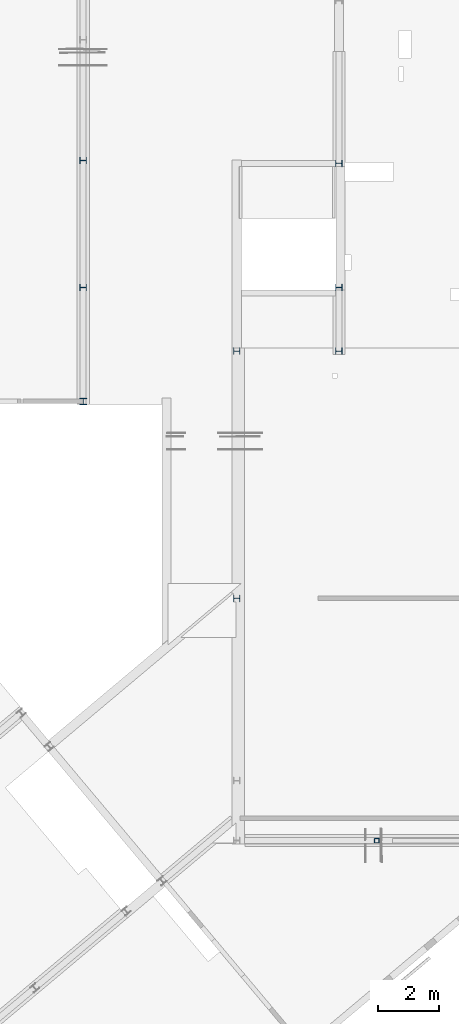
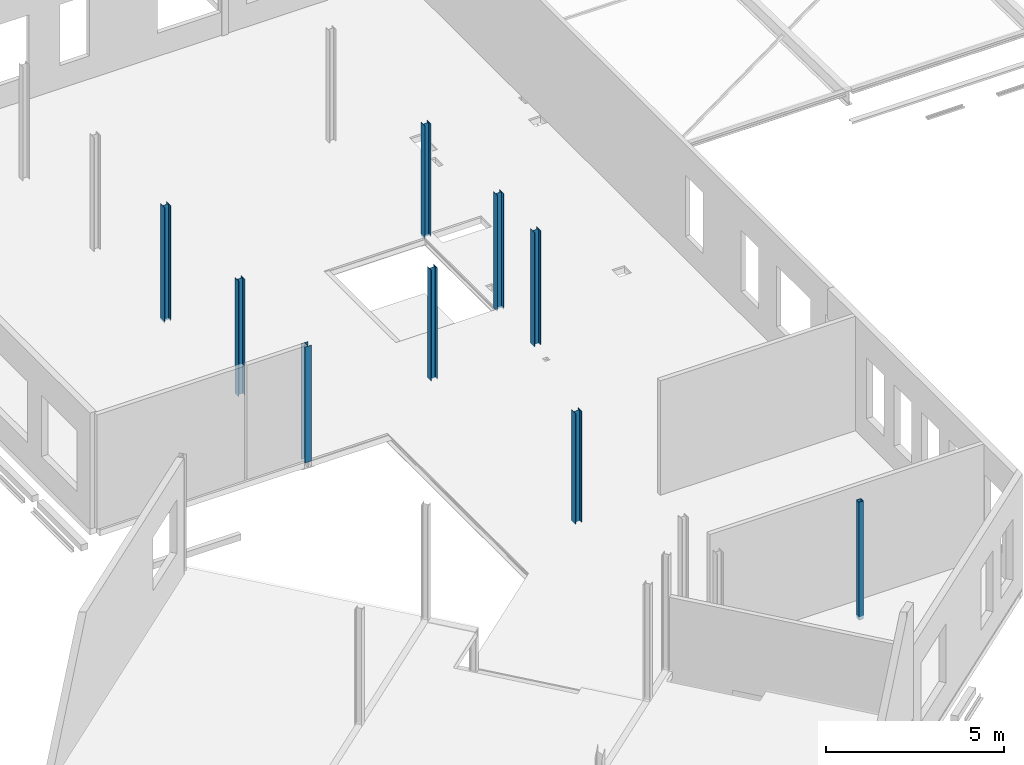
# One storey, part 2 of 16: 9 columns.
"""IFC2X3 building model written with IfcOpenShell, lengths in millimetres."""

import ifcopenshell
import ifcopenshell.guid

model = None  # the IFC model being written
_history = None  # IfcOwnerHistory: only IFC2X3 demands one
_inside = {}  # id of a spatial element -> (the spatial element, [elements in it])
_under = {}  # id of a project, library or spatial element -> (it, [spatial elements below it])
_declared = {}  # id of a project -> (the project, [libraries it declares])
_typed = {}  # id of a type object -> (the type object, [elements of that type])
_made_of = {}  # id of a material, layer set ... -> (it, [elements and type objects made of it])


def new_model(schema):
    """Start an empty IFC model of exactly this schema.

    Asked for "IFC4X3", IfcOpenShell would pick the latest addendum, in which some entities
    have other attributes; the version numbers below select the first issue.
    IFC2X3 requires an IfcOwnerHistory on every rooted entity: one is made here for all.
    """
    global model, _history
    if schema == "IFC4X3":
        model = ifcopenshell.file(schema_version=(4, 3, 0, 0))
    else:
        model = ifcopenshell.file(schema=schema)
    _inside.clear()
    _under.clear()
    _declared.clear()
    _typed.clear()
    _made_of.clear()
    _history = None
    if model.schema == "IFC2X3":
        org = make("IfcOrganization", Name="unknown")
        user = make(
            "IfcPersonAndOrganization",
            ThePerson=make("IfcPerson", FamilyName="unknown"),
            TheOrganization=org,
        )
        app = make(
            "IfcApplication",
            ApplicationDeveloper=org,
            Version="unknown",
            ApplicationFullName="unknown",
            ApplicationIdentifier="unknown",
        )
        _history = make(
            "IfcOwnerHistory",
            OwningUser=user,
            OwningApplication=app,
            ChangeAction="ADDED",
            CreationDate=0,
        )
    return model


def make(cls, **values):
    """One entity of the class cls with the attributes given. An attribute that is None is left unset."""
    return model.create_entity(
        cls, **{name: value for name, value in values.items() if value is not None}
    )


def entity(cls, *values):
    """Any entity or typed value of the class cls, its attributes in the order of the schema. None: left unset."""
    e = model.create_entity(cls)
    for i, value in enumerate(values):
        if value is not None:
            e[i] = value
    return e


def rooted(cls, **values):
    """An entity with a GlobalId (a new one), such as an element, a storey or a relation."""
    return make(cls, GlobalId=ifcopenshell.guid.new(), OwnerHistory=_history, **values)


def si_unit(unit_type, name, prefix=None):
    """IfcSIUnit, for example si_unit("LENGTHUNIT", "METRE", prefix="MILLI")."""
    return make("IfcSIUnit", UnitType=unit_type, Prefix=prefix, Name=name)


def converted_unit(unit_type, name, factor, base, dimensions=None, offset=None):
    """IfcConversionBasedUnit, such as the inch: factor (a typed value) times the base unit."""
    return make(
        "IfcConversionBasedUnit"
        if offset is None
        else "IfcConversionBasedUnitWithOffset",
        ConversionOffset=offset,
        Dimensions=None
        if dimensions is None
        else entity("IfcDimensionalExponents", *dimensions),
        UnitType=unit_type,
        Name=name,
        ConversionFactor=make(
            "IfcMeasureWithUnit", ValueComponent=factor, UnitComponent=base
        ),
    )


def derived_unit(unit_type, elements):
    """IfcDerivedUnit: a product of units, each with its exponent."""
    return make(
        "IfcDerivedUnit",
        Elements=[
            make("IfcDerivedUnitElement", Unit=unit, Exponent=power)
            for unit, power in elements
        ],
        UnitType=unit_type,
    )


def assignment(units):
    """IfcUnitAssignment: the units of a project."""
    return None if units is None else make("IfcUnitAssignment", Units=units)


def point(xyz):
    """IfcCartesianPoint."""
    return None if xyz is None else make("IfcCartesianPoint", Coordinates=xyz)


def direction(xyz):
    """IfcDirection."""
    return None if xyz is None else make("IfcDirection", DirectionRatios=xyz)


def frame(location, z_axis=None, x_axis=None):
    """IfcAxis2Placement3D, a coordinate frame: its origin and axes. An axis left out is left unset."""
    return make(
        "IfcAxis2Placement3D",
        Location=point(location),
        Axis=direction(z_axis),
        RefDirection=direction(x_axis),
    )


def frame_2d(location, x_axis=None):
    """IfcAxis2Placement2D, a coordinate frame in the plane: its origin and x axis."""
    return make(
        "IfcAxis2Placement2D", Location=point(location), RefDirection=direction(x_axis)
    )


def origin():
    """The frame at (0, 0, 0) with its axes left unset."""
    return frame((0.0, 0.0, 0.0))


def place(relative_to, where):
    """IfcLocalPlacement: puts the frame where relative to a parent placement (None: the world)."""
    return make(
        "IfcLocalPlacement", PlacementRelTo=relative_to, RelativePlacement=where
    )


def context(
    kind, dimensions, precision=None, world=None, true_north=None, identifier=None
):
    """IfcGeometricRepresentationContext, for example the 3D "Model" context."""
    return make(
        "IfcGeometricRepresentationContext",
        ContextIdentifier=identifier,
        ContextType=kind,
        CoordinateSpaceDimension=dimensions,
        Precision=precision,
        WorldCoordinateSystem=world,
        TrueNorth=true_north,
    )


def subcontext(parent, identifier, kind, view, scale=None):
    """IfcGeometricRepresentationSubContext, for example "Body" below "Model"."""
    return make(
        "IfcGeometricRepresentationSubContext",
        ContextIdentifier=identifier,
        ContextType=kind,
        ParentContext=parent,
        TargetScale=scale,
        TargetView=view,
    )


def project(units=None, contexts=None):
    """IfcProject with its units and contexts."""
    return rooted(
        "IfcProject",
        Name="project",
        RepresentationContexts=contexts,
        UnitsInContext=assignment(units),
    )


def spatial(cls, under=None, at=None, **own):
    """A site, building, storey or space (cls), placed at a placement, below another one or the project."""
    s = rooted(cls, ObjectPlacement=at, **own)
    if under is not None:
        _under.setdefault(under.id(), (under, []))[1].append(s)
    return s


def polyline(points):
    """IfcPolyline through the points."""
    return make("IfcPolyline", Points=[point(p) for p in points])


def circle_curve(where, radius):
    """IfcCircle in the frame where."""
    return make("IfcCircle", Position=where, Radius=radius)


def parameter(value):
    """IfcParameterValue: where a trimmed curve begins or ends, as a parameter of its basis curve."""
    return model.create_entity("IfcParameterValue", value)


def trimmed(basis, trim1, trim2, sense, master):
    """IfcTrimmedCurve: the piece of a basis curve between two trims."""
    return make(
        "IfcTrimmedCurve",
        BasisCurve=basis,
        Trim1=trim1,
        Trim2=trim2,
        SenseAgreement=sense,
        MasterRepresentation=master,
    )


def segment(curve, same_sense, transition):
    """IfcCompositeCurveSegment."""
    return make(
        "IfcCompositeCurveSegment",
        Transition=transition,
        SameSense=same_sense,
        ParentCurve=curve,
    )


def composite_curve(segments, self_intersect=None):
    """IfcCompositeCurve: segments joined end to end."""
    return make("IfcCompositeCurve", Segments=segments, SelfIntersect=self_intersect)


def profile(cls, at=None, kind="AREA", **sizes):
    """A parametric profile (cls). Its sizes go by their IFC names, for example OverallWidth=200.0."""
    return make(cls, ProfileType=kind, Position=at, **sizes)


def i_section(**sizes):
    """IfcIShapeProfileDef."""
    return profile("IfcIShapeProfileDef", **sizes)


def outline(outer, holes=None, kind="AREA"):
    """IfcArbitraryClosedProfileDef: a profile drawn as a closed curve; with holes, ...WithVoids."""
    if holes is None:
        return make("IfcArbitraryClosedProfileDef", ProfileType=kind, OuterCurve=outer)
    return make(
        "IfcArbitraryProfileDefWithVoids",
        ProfileType=kind,
        OuterCurve=outer,
        InnerCurves=holes,
    )


def extrude(swept, where, along, depth):
    """IfcExtrudedAreaSolid: the profile swept, set in the frame where, extruded along a direction by depth."""
    return make(
        "IfcExtrudedAreaSolid",
        SweptArea=swept,
        Position=where,
        ExtrudedDirection=direction(along),
        Depth=depth,
    )


def shape(context_of_items, identifier, shape_type, items):
    """IfcShapeRepresentation: the items that make up one representation, for example the "Body"."""
    return make(
        "IfcShapeRepresentation",
        ContextOfItems=context_of_items,
        RepresentationIdentifier=identifier,
        RepresentationType=shape_type,
        Items=items,
    )


def source(mapping_origin, context_of_items, identifier, shape_type, items):
    """IfcRepresentationMap: a shape defined once, which mapped items show again and again."""
    return make(
        "IfcRepresentationMap",
        MappingOrigin=mapping_origin,
        MappedRepresentation=shape(context_of_items, identifier, shape_type, items),
    )


def transform(
    local_origin,
    x_axis=None,
    y_axis=None,
    z_axis=None,
    scale=None,
    scale2=None,
    scale3=None,
    uniform=True,
):
    """IfcCartesianTransformationOperator3D, or its non-uniform kind. x_axis, y_axis, z_axis: its Axis1, 2, 3."""
    if uniform:
        return make(
            "IfcCartesianTransformationOperator3D",
            Axis1=direction(x_axis),
            Axis2=direction(y_axis),
            LocalOrigin=point(local_origin),
            Scale=scale,
            Axis3=direction(z_axis),
        )
    return make(
        "IfcCartesianTransformationOperator3DnonUniform",
        Axis1=direction(x_axis),
        Axis2=direction(y_axis),
        LocalOrigin=point(local_origin),
        Scale=scale,
        Axis3=direction(z_axis),
        Scale2=scale2,
        Scale3=scale3,
    )


def mapped(mapping_source, mapping_target):
    """IfcMappedItem: shows the shape of a source again, moved by a transform."""
    return make(
        "IfcMappedItem", MappingSource=mapping_source, MappingTarget=mapping_target
    )


def material(Name=None, Category=None):
    """IfcMaterial."""
    return make("IfcMaterial", Name=Name, Category=Category)


def made_of(thing, what):
    """Note that an element or type object is made of a material, layer set ...; save() writes the relation."""
    if what is not None:
        _made_of.setdefault(what.id(), (what, []))[1].append(thing)
    return thing


def type_object(cls, material=None, **own):
    """A type object (cls), such as IfcWallType, which elements share."""
    return made_of(rooted(cls, **own), material)


def type_shapes(of_type, sources):
    """Give a type object the sources (RepresentationMaps) that its elements show as mapped items."""
    of_type.RepresentationMaps = sources


def element(
    cls,
    number,
    at=None,
    inside=None,
    cuts=None,
    type_object=None,
    material=None,
    context=None,
    identifier="Body",
    shape_type=None,
    held_by="IfcProductDefinitionShape",
    body=None,
    shapes=None,
    **own,
):
    """One element of the class cls, such as IfcWall. Its Tag is "e" and its number.

    at: its placement. inside: the storey or other place that contains it. cuts: it is an
    opening in that element (IfcRelVoidsElement). A single representation is given by context,
    identifier, shape_type and body (its items); several are given by shapes. held_by: the class
    of the entity that holds the representations. save() writes the other relations.
    """
    e = rooted(cls, Tag="e%d" % number, ObjectPlacement=at, **own)
    if body is not None:
        shapes = [shape(context, identifier, shape_type, body)]
    if shapes is not None:
        e.Representation = make(held_by, Representations=shapes)
    if inside is not None:
        _inside.setdefault(inside.id(), (inside, []))[1].append(e)
    if cuts is not None:
        rooted(
            "IfcRelVoidsElement", RelatingBuildingElement=cuts, RelatedOpeningElement=e
        )
    if type_object is not None:
        _typed.setdefault(type_object.id(), (type_object, []))[1].append(e)
    return made_of(e, material)


def aggregate(whole, parts):
    """IfcRelAggregates: a whole, such as a stair, and the parts it consists of."""
    return rooted("IfcRelAggregates", RelatingObject=whole, RelatedObjects=parts)


def save(model, path):
    """Write the relations noted so far, then the file.

    IfcRelAggregates (storeys below a building ...), IfcRelContainedInSpatialStructure (elements
    in a storey), IfcRelDefinesByType, IfcRelAssociatesMaterial and IfcRelDeclares: one each for
    every whole, place, type object, material and project.
    """
    for whole, parts in _under.values():
        aggregate(whole, parts)
    for where, things in _inside.values():
        rooted(
            "IfcRelContainedInSpatialStructure",
            RelatedElements=things,
            RelatingStructure=where,
        )
    for kind, things in _typed.values():
        rooted("IfcRelDefinesByType", RelatedObjects=things, RelatingType=kind)
    for what, things in _made_of.values():
        rooted("IfcRelAssociatesMaterial", RelatedObjects=things, RelatingMaterial=what)
    for by, libraries in _declared.values():
        rooted("IfcRelDeclares", RelatingContext=by, RelatedDefinitions=libraries)
    model.write(path)


model = new_model("IFC2X3")

# Units and contexts
model_context = context("Model", 3, precision=0.01, world=origin(), true_north=direction((6.12303176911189e-17, 1.0)))
body_context = subcontext(model_context, "Body", "Model", "MODEL_VIEW")
ifc_project = project(units=[si_unit("LENGTHUNIT", "METRE", prefix="MILLI"), si_unit("AREAUNIT", "SQUARE_METRE"), si_unit("VOLUMEUNIT", "CUBIC_METRE"), converted_unit("PLANEANGLEUNIT", "DEGREE", entity("IfcRatioMeasure", 0.0174532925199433), si_unit("PLANEANGLEUNIT", "RADIAN"), dimensions=[0, 0, 0, 0, 0, 0, 0]), si_unit("MASSUNIT", "GRAM", prefix="KILO"), derived_unit("MASSDENSITYUNIT", [(si_unit("MASSUNIT", "GRAM", prefix="KILO"), 1), (si_unit("LENGTHUNIT", "METRE"), -3)]), derived_unit("MOMENTOFINERTIAUNIT", [(si_unit("LENGTHUNIT", "METRE"), 4)]), si_unit("TIMEUNIT", "SECOND"), si_unit("FREQUENCYUNIT", "HERTZ"), si_unit("THERMODYNAMICTEMPERATUREUNIT", "DEGREE_CELSIUS"), derived_unit("THERMALTRANSMITTANCEUNIT", [(si_unit("MASSUNIT", "GRAM", prefix="KILO"), 1), (si_unit("THERMODYNAMICTEMPERATUREUNIT", "KELVIN"), -1), (si_unit("TIMEUNIT", "SECOND"), -3)]), derived_unit("VOLUMETRICFLOWRATEUNIT", [(si_unit("LENGTHUNIT", "METRE"), 3), (si_unit("TIMEUNIT", "SECOND"), -1)]), si_unit("ELECTRICCURRENTUNIT", "AMPERE"), si_unit("ELECTRICVOLTAGEUNIT", "VOLT"), si_unit("POWERUNIT", "WATT"), si_unit("FORCEUNIT", "NEWTON", prefix="KILO"), si_unit("ILLUMINANCEUNIT", "LUX"), si_unit("LUMINOUSFLUXUNIT", "LUMEN"), si_unit("LUMINOUSINTENSITYUNIT", "CANDELA"), derived_unit("USERDEFINED", [(si_unit("MASSUNIT", "GRAM", prefix="KILO"), -1), (si_unit("LENGTHUNIT", "METRE"), -2), (si_unit("TIMEUNIT", "SECOND"), 3), (si_unit("LUMINOUSFLUXUNIT", "LUMEN"), 1)]), derived_unit("LINEARVELOCITYUNIT", [(si_unit("LENGTHUNIT", "METRE"), 1), (si_unit("TIMEUNIT", "SECOND"), -1)]), si_unit("PRESSUREUNIT", "PASCAL"), derived_unit("USERDEFINED", [(si_unit("LENGTHUNIT", "METRE"), -2), (si_unit("MASSUNIT", "GRAM", prefix="KILO"), 1), (si_unit("TIMEUNIT", "SECOND"), -2)]), derived_unit("LINEARFORCEUNIT", [(si_unit("MASSUNIT", "GRAM", prefix="KILO"), 1), (si_unit("LENGTHUNIT", "METRE"), 1), (si_unit("TIMEUNIT", "SECOND"), -2), (si_unit("LENGTHUNIT", "METRE"), -1)]), derived_unit("PLANARFORCEUNIT", [(si_unit("MASSUNIT", "GRAM", prefix="KILO"), 1), (si_unit("LENGTHUNIT", "METRE"), 1), (si_unit("TIMEUNIT", "SECOND"), -2), (si_unit("LENGTHUNIT", "METRE"), -2)])], contexts=[model_context])

# Site, building, storey
site_placement = place(None, origin())
site = spatial("IfcSite", under=ifc_project, at=site_placement, Name="Default", CompositionType="ELEMENT")
building_placement = place(site_placement, origin())
building = spatial("IfcBuilding", under=site, at=building_placement, CompositionType="ELEMENT")
storey_placement = place(building_placement, frame((0.0, 0.0, 3500.0)))
storey = spatial("IfcBuildingStorey", under=building, at=storey_placement, Name="01 eerste verdieping", CompositionType="ELEMENT", Elevation=3500.00000000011)

# Columns
ifc_material_1 = material(Name="h2_staal")
column_type_1 = type_object("IfcColumnType", Name="BERSnl_28_SCO_TLB_kolom hea_gen_ISR:kolom gen hea220", PredefinedType="COLUMN", material=ifc_material_1)
shared_shape_1 = source(origin(), body_context, "Body", "SweptSolid", [
    extrude(outline(composite_curve([segment(polyline([(94.0, -110.0), (105.0, -110.0)]), True, "CONTINUOUS"), segment(polyline([(105.0, -110.0), (105.0, 110.0)]), True, "CONTINUOUS"), segment(polyline([(105.0, 110.0), (94.0, 110.0)]), True, "CONTINUOUS"), segment(polyline([(94.0, 110.0), (94.0, 21.5000000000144)]), True, "CONTINUOUS"), segment(trimmed(circle_curve(frame_2d((76.0, 21.5000000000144), x_axis=(1.0, 0.0)), 18.0), [parameter(270.0)], [parameter(0.0)], True, "PARAMETER"), False, "CONTINUOUS"), segment(polyline([(76.0, 3.50000000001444), (-76.0, 3.50000000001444)]), True, "CONTINUOUS"), segment(trimmed(circle_curve(frame_2d((-76.0, 21.5000000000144), x_axis=(0.0, -1.0)), 18.0), [parameter(270.0)], [parameter(0.0)], True, "PARAMETER"), False, "CONTINUOUS"), segment(polyline([(-94.0, 21.5000000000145), (-94.0, 110.0)]), True, "CONTINUOUS"), segment(polyline([(-94.0, 110.0), (-105.0, 110.0)]), True, "CONTINUOUS"), segment(polyline([(-105.0, 110.0), (-105.0, -110.0)]), True, "CONTINUOUS"), segment(polyline([(-105.0, -110.0), (-94.0, -110.0)]), True, "CONTINUOUS"), segment(polyline([(-94.0, -110.0), (-94.0, -21.5000000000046)]), True, "CONTINUOUS"), segment(trimmed(circle_curve(frame_2d((-76.0, -21.5000000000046), x_axis=(-1.0, 0.0)), 18.0), [parameter(269.999999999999)], [parameter(0.0)], True, "PARAMETER"), False, "CONTINUOUS"), segment(polyline([(-76.0, -3.50000000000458), (76.0, -3.50000000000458)]), True, "CONTINUOUS"), segment(trimmed(circle_curve(frame_2d((76.0, -21.5000000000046), x_axis=(0.0, 1.0)), 18.0), [parameter(270.0)], [parameter(0.0)], True, "PARAMETER"), False, "CONTINUOUS"), segment(polyline([(94.0, -21.5000000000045), (94.0, -110.0)]), True, "CONTINUOUS")], self_intersect=False)), frame((0.0, 0.0, 3850.0), z_axis=(0.0, 0.0, 1.0), x_axis=(0.0, -1.0, 0.0)), (0.0, 0.0, 1.0), 3975.0),
])
type_shapes(column_type_1, [shared_shape_1])
for number, where, z_axis, x_axis, name in (
    (1, (20569.4349765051, 24097.2966282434, -3500.0), (0.0, 0.0, 1.0), (0.0, 1.0, 0.0), "BERSnl_28_SCO_TLB_kolom hea_gen_ISR:kolom gen hea220"),
    (2, (20569.4349765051, 19921.8399254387, -3500.0), (0.0, 0.0, 1.0), (0.0, 1.0, 0.0), "BERSnl_28_SCO_TLB_kolom hea_gen_ISR:kolom gen hea220"),
    (3, (20569.4349765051, 16182.2966282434, -3500.0), (0.0, 0.0, 1.0), (-1.0, 0.0, 0.0), "BERSnl_28_SCO_TLB_kolom hea_gen_ISR:kolom gen hea220"),
    (4, (28969.4349765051, 19922.2966282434, -3500.0), (0.0, 0.0, 1.0), (0.0, 1.0, 0.0), "BERSnl_28_SCO_TLB_kolom hea_gen_ISR:kolom gen hea220"),
):
    element("IfcColumn", number, at=place(storey_placement, frame(where, z_axis=z_axis, x_axis=x_axis)), inside=storey, type_object=column_type_1, Name=name, ObjectType="BERSnl_28_SCO_TLB_kolom hea_gen_ISR:kolom gen hea220", context=body_context, shape_type="MappedRepresentation", body=[
        mapped(shared_shape_1, transform((0.0, 0.0, 0.0), scale=1.0)),
    ])
column_type_2 = type_object("IfcColumnType", Name="BERSnl_28_SCO_TLB_kolom hea_gen_ISR:kolom gen hea220", PredefinedType="COLUMN", material=ifc_material_1)
shared_shape_2 = source(origin(), body_context, "Body", "SweptSolid", [
    extrude(outline(composite_curve([segment(polyline([(94.0, -110.0), (105.0, -110.0)]), True, "CONTINUOUS"), segment(polyline([(105.0, -110.0), (105.0, 110.0)]), True, "CONTINUOUS"), segment(polyline([(105.0, 110.0), (94.0, 110.0)]), True, "CONTINUOUS"), segment(polyline([(94.0, 110.0), (94.0, 21.5000000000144)]), True, "CONTINUOUS"), segment(trimmed(circle_curve(frame_2d((76.0, 21.5000000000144), x_axis=(1.0, 0.0)), 18.0), [parameter(270.0)], [parameter(0.0)], True, "PARAMETER"), False, "CONTINUOUS"), segment(polyline([(76.0, 3.50000000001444), (-76.0, 3.50000000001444)]), True, "CONTINUOUS"), segment(trimmed(circle_curve(frame_2d((-76.0, 21.5000000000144), x_axis=(0.0, -1.0)), 18.0), [parameter(270.0)], [parameter(0.0)], True, "PARAMETER"), False, "CONTINUOUS"), segment(polyline([(-94.0, 21.5000000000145), (-94.0, 110.0)]), True, "CONTINUOUS"), segment(polyline([(-94.0, 110.0), (-105.0, 110.0)]), True, "CONTINUOUS"), segment(polyline([(-105.0, 110.0), (-105.0, -110.0)]), True, "CONTINUOUS"), segment(polyline([(-105.0, -110.0), (-94.0, -110.0)]), True, "CONTINUOUS"), segment(polyline([(-94.0, -110.0), (-94.0, -21.5000000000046)]), True, "CONTINUOUS"), segment(trimmed(circle_curve(frame_2d((-76.0, -21.5000000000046), x_axis=(-1.0, 0.0)), 18.0), [parameter(269.999999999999)], [parameter(0.0)], True, "PARAMETER"), False, "CONTINUOUS"), segment(polyline([(-76.0, -3.50000000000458), (76.0, -3.50000000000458)]), True, "CONTINUOUS"), segment(trimmed(circle_curve(frame_2d((76.0, -21.5000000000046), x_axis=(0.0, 1.0)), 18.0), [parameter(270.0)], [parameter(0.0)], True, "PARAMETER"), False, "CONTINUOUS"), segment(polyline([(94.0, -21.5000000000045), (94.0, -110.0)]), True, "CONTINUOUS")], self_intersect=False)), frame((0.0, 0.0, 3850.0), z_axis=(0.0, 0.0, 1.0), x_axis=(0.0, -1.0, 0.0)), (0.0, 0.0, 1.0), 3891.0),
])
type_shapes(column_type_2, [shared_shape_2])
column_1_placement = place(storey_placement, frame((28969.4349765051, 24002.2966282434, -3500.0), z_axis=(0.0, 0.0, 1.0), x_axis=(0.0, 1.0, 0.0)))
element("IfcColumn", 5, at=column_1_placement, inside=storey, type_object=column_type_2, Name="BERSnl_28_SCO_TLB_kolom hea_gen_ISR:kolom gen hea220", ObjectType="BERSnl_28_SCO_TLB_kolom hea_gen_ISR:kolom gen hea220", context=body_context, shape_type="MappedRepresentation", body=[
    mapped(shared_shape_2, transform((0.0, 0.0, 0.0), scale=1.0)),
])
column_type_3 = type_object("IfcColumnType", Name="BERSnl_28_SCO_TLB_kolom hea_gen_ISR:kolom gen hea220", PredefinedType="COLUMN", material=ifc_material_1)
shared_shape_3 = source(origin(), body_context, "Body", "SweptSolid", [
    extrude(outline(composite_curve([segment(polyline([(94.0, -110.0), (105.0, -110.0)]), True, "CONTINUOUS"), segment(polyline([(105.0, -110.0), (105.0, 110.0)]), True, "CONTINUOUS"), segment(polyline([(105.0, 110.0), (94.0, 110.0)]), True, "CONTINUOUS"), segment(polyline([(94.0, 110.0), (94.0, 21.5000000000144)]), True, "CONTINUOUS"), segment(trimmed(circle_curve(frame_2d((76.0, 21.5000000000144), x_axis=(1.0, 0.0)), 18.0), [parameter(270.0)], [parameter(0.0)], True, "PARAMETER"), False, "CONTINUOUS"), segment(polyline([(76.0, 3.50000000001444), (-76.0, 3.50000000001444)]), True, "CONTINUOUS"), segment(trimmed(circle_curve(frame_2d((-76.0, 21.5000000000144), x_axis=(0.0, -1.0)), 18.0), [parameter(270.0)], [parameter(0.0)], True, "PARAMETER"), False, "CONTINUOUS"), segment(polyline([(-94.0, 21.5000000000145), (-94.0, 110.0)]), True, "CONTINUOUS"), segment(polyline([(-94.0, 110.0), (-105.0, 110.0)]), True, "CONTINUOUS"), segment(polyline([(-105.0, 110.0), (-105.0, -110.0)]), True, "CONTINUOUS"), segment(polyline([(-105.0, -110.0), (-94.0, -110.0)]), True, "CONTINUOUS"), segment(polyline([(-94.0, -110.0), (-94.0, -21.5000000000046)]), True, "CONTINUOUS"), segment(trimmed(circle_curve(frame_2d((-76.0, -21.5000000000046), x_axis=(-1.0, 0.0)), 18.0), [parameter(269.999999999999)], [parameter(0.0)], True, "PARAMETER"), False, "CONTINUOUS"), segment(polyline([(-76.0, -3.50000000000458), (76.0, -3.50000000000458)]), True, "CONTINUOUS"), segment(trimmed(circle_curve(frame_2d((76.0, -21.5000000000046), x_axis=(0.0, 1.0)), 18.0), [parameter(270.0)], [parameter(0.0)], True, "PARAMETER"), False, "CONTINUOUS"), segment(polyline([(94.0, -21.5000000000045), (94.0, -110.0)]), True, "CONTINUOUS")], self_intersect=False)), frame((0.0, 0.0, 3890.0), z_axis=(0.0, 0.0, 1.0), x_axis=(0.0, -1.0, 0.0)), (0.0, 0.0, 1.0), 3818.0),
])
type_shapes(column_type_3, [shared_shape_3])
column_2_placement = place(storey_placement, frame((25615.4349765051, 17833.5697997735, -3500.0), z_axis=(0.0, 0.0, 1.0), x_axis=(0.0, 1.0, 0.0)))
element("IfcColumn", 6, at=column_2_placement, inside=storey, type_object=column_type_3, Name="BERSnl_28_SCO_TLB_kolom hea_gen_ISR:kolom gen hea220", ObjectType="BERSnl_28_SCO_TLB_kolom hea_gen_ISR:kolom gen hea220", context=body_context, shape_type="MappedRepresentation", body=[
    mapped(shared_shape_3, transform((0.0, 0.0, 0.0), scale=1.0)),
])
column_type_4 = type_object("IfcColumnType", Name="BERSnl_28_SCO_TLB_kolom hea_gen_ISR:kolom gen hea220", PredefinedType="COLUMN", material=ifc_material_1)
shared_shape_4 = source(origin(), body_context, "Body", "SweptSolid", [
    extrude(i_section(OverallWidth=220.0, OverallDepth=210.0, WebThickness=7.00000000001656, FlangeThickness=11.0000000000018, FilletRadius=18.0000000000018, at=frame_2d((1.08002495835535e-12, -2.1600499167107e-12), x_axis=(1.0, 0.0))), frame((28969.4349765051, 17833.5697997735, 3890.0), z_axis=(0.0, 0.0, 1.0), x_axis=(0.0, -1.0, 0.0)), (0.0, 0.0, 1.0), 3935.0),
])
type_shapes(column_type_4, [shared_shape_4])
column_3_placement = place(storey_placement, frame((0.0, 0.0, -3500.0)))
element("IfcColumn", 7, at=column_3_placement, inside=storey, type_object=column_type_4, Name="BERSnl_28_SCO_TLB_kolom hea_gen_ISR:kolom gen hea220", ObjectType="BERSnl_28_SCO_TLB_kolom hea_gen_ISR:kolom gen hea220", context=body_context, shape_type="MappedRepresentation", body=[
    mapped(shared_shape_4, transform((0.0, 0.0, 0.0), scale=1.0)),
])
column_type_5 = type_object("IfcColumnType", Name="BERSnl_28_SCO_TLB_kolom hea_gen_ISR:kolom gen hea220", PredefinedType="COLUMN", material=ifc_material_1)
shared_shape_5 = source(origin(), body_context, "Body", "SweptSolid", [
    extrude(i_section(OverallWidth=220.000000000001, OverallDepth=210.0, WebThickness=7.00000000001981, FlangeThickness=11.0000000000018, FilletRadius=18.0000000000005, at=frame_2d((4.87432316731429e-12, -6.49436060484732e-12), x_axis=(1.0, 0.0))), frame((25615.4349765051, 9710.2966282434, 3890.0), z_axis=(0.0, 0.0, 1.0), x_axis=(0.0, -1.0, 0.0)), (0.0, 0.0, 1.0), 3818.0),
])
type_shapes(column_type_5, [shared_shape_5])
column_4_placement = place(storey_placement, frame((0.0, 0.0, -3500.0)))
element("IfcColumn", 8, at=column_4_placement, inside=storey, type_object=column_type_5, Name="BERSnl_28_SCO_TLB_kolom hea_gen_ISR:kolom gen hea220", ObjectType="BERSnl_28_SCO_TLB_kolom hea_gen_ISR:kolom gen hea220", context=body_context, shape_type="MappedRepresentation", body=[
    mapped(shared_shape_5, transform((0.0, 0.0, 0.0), scale=1.0)),
])
ifc_material_2 = material(Name="00_Staal_generiek")
column_type_6 = type_object("IfcColumnType", Name="BERSnl_28_SCO_TLB_kolom koker_gen_ISR:kolom gen K150x150x8", PredefinedType="COLUMN", material=ifc_material_2)
shared_shape_6 = source(origin(), body_context, "Body", "SweptSolid", [
    extrude(outline(composite_curve([segment(trimmed(circle_curve(frame_2d((65.0, 65.0), x_axis=(1.0, 0.0)), 10.0), [parameter(360.0)], [parameter(89.9999999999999)], True, "PARAMETER"), True, "CONTINUOUS"), segment(polyline([(65.0, 75.0), (-65.0, 75.0)]), True, "CONTINUOUS"), segment(trimmed(circle_curve(frame_2d((-65.0, 65.0), x_axis=(1.0, 0.0)), 10.0), [parameter(90.0000000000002)], [parameter(180.0)], True, "PARAMETER"), True, "CONTINUOUS"), segment(polyline([(-75.0, 65.0), (-75.0, -65.0)]), True, "CONTINUOUS"), segment(trimmed(circle_curve(frame_2d((-65.0, -65.0), x_axis=(1.0, 0.0)), 10.0), [parameter(180.0)], [parameter(270.0)], True, "PARAMETER"), True, "CONTINUOUS"), segment(polyline([(-65.0, -75.0), (65.0, -75.0)]), True, "CONTINUOUS"), segment(trimmed(circle_curve(frame_2d((65.0, -65.0), x_axis=(1.0, 0.0)), 10.0), [parameter(270.0)], [parameter(3.56222124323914e-13)], True, "PARAMETER"), True, "CONTINUOUS"), segment(polyline([(75.0, -65.0), (75.0, 65.0)]), True, "CONTINUOUS")], self_intersect=False), holes=[composite_curve([segment(polyline([(-65.0, 67.0), (65.0, 67.0)]), True, "CONTINUOUS"), segment(trimmed(circle_curve(frame_2d((65.0, 65.0), x_axis=(1.0, 0.0)), 2.0), [parameter(0.0)], [parameter(90.0000000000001)], True, "PARAMETER"), False, "CONTINUOUS"), segment(polyline([(67.0, 65.0), (67.0, -65.0)]), True, "CONTINUOUS"), segment(trimmed(circle_curve(frame_2d((65.0, -65.0), x_axis=(1.0, 0.0)), 2.0), [parameter(269.999999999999)], [parameter(360.0)], True, "PARAMETER"), False, "CONTINUOUS"), segment(polyline([(65.0, -67.0), (-65.0, -67.0)]), True, "CONTINUOUS"), segment(trimmed(circle_curve(frame_2d((-65.0, -65.0), x_axis=(1.0, 0.0)), 2.0), [parameter(180.0)], [parameter(270.0)], True, "PARAMETER"), False, "CONTINUOUS"), segment(polyline([(-67.0, -65.0), (-67.0, 65.0)]), True, "CONTINUOUS"), segment(trimmed(circle_curve(frame_2d((-65.0, 65.0), x_axis=(1.0, 0.0)), 2.0), [parameter(89.9999999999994)], [parameter(180.0)], True, "PARAMETER"), False, "CONTINUOUS")], self_intersect=False)]), frame((0.0, 0.0, 3790.0), z_axis=(0.0, 0.0, 1.0), x_axis=(-1.0, 0.0, 0.0)), (0.0, 0.0, 1.0), 4050.0),
])
type_shapes(column_type_6, [shared_shape_6])
column_5_placement = place(storey_placement, frame((30215.4349765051, 1752.29662827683, -3500.0)))
element("IfcColumn", 9, at=column_5_placement, inside=storey, type_object=column_type_6, material=ifc_material_2, Name="BERSnl_28_SCO_TLB_kolom koker_gen_ISR:kolom gen K150x150x8", ObjectType="BERSnl_28_SCO_TLB_kolom koker_gen_ISR:kolom gen K150x150x8", context=body_context, shape_type="MappedRepresentation", body=[
    mapped(shared_shape_6, transform((0.0, 0.0, 0.0), scale=1.0)),
])

save(model, "model.ifc")
